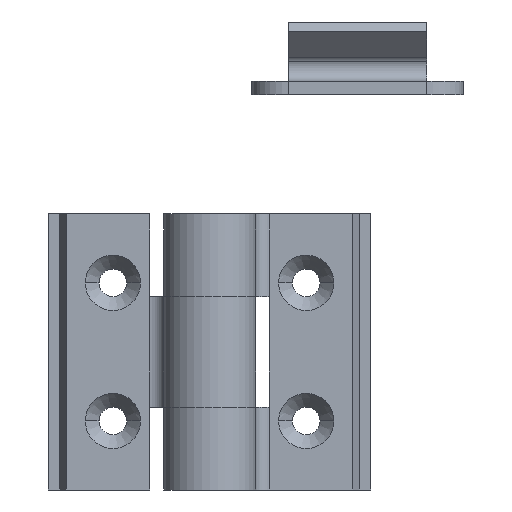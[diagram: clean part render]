
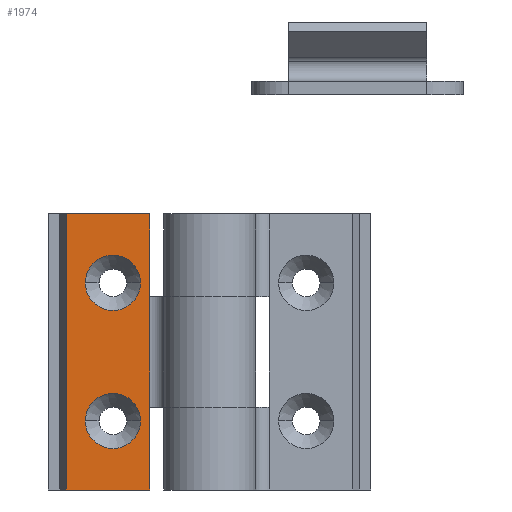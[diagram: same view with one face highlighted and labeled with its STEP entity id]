
A CAD part, front view. The second image highlights one B-rep face of the part: STEP entity #1974.
In plain terms, the highlighted planar face has unit normal (0, -1, 0).
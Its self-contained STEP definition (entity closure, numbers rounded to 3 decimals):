
#1484=CARTESIAN_POINT('',(-0.231,2.,6.));
#1485=VERTEX_POINT('',#1484);
#1493=CARTESIAN_POINT('',(-0.231,2.,-6.));
#1494=VERTEX_POINT('',#1493);
#1495=CARTESIAN_POINT('',(-0.231,2.,-6.));
#1496=DIRECTION('',(0.0,0.0,1.0));
#1497=VECTOR('',#1496,12.0);
#1498=LINE('',#1495,#1497);
#1499=EDGE_CURVE('',#1494,#1485,#1498,.T.);
#1558=CARTESIAN_POINT('',(-7.25,2.,7.5));
#1559=VERTEX_POINT('',#1558);
#1567=CARTESIAN_POINT('',(-1.25,2.,7.5));
#1568=VERTEX_POINT('',#1567);
#1575=CARTESIAN_POINT('',(-4.25,2.,7.5));
#1576=DIRECTION('',(0.0,1.0,0.0));
#1577=DIRECTION('',(-1.0,0.0,0.0));
#1578=AXIS2_PLACEMENT_3D('',#1575,#1576,#1577);
#1579=CIRCLE('',#1578,3.);
#1580=EDGE_CURVE('',#1559,#1568,#1579,.T.);
#1632=CARTESIAN_POINT('',(-7.25,2.,-7.5));
#1633=VERTEX_POINT('',#1632);
#1641=CARTESIAN_POINT('',(-1.25,2.,-7.5));
#1642=VERTEX_POINT('',#1641);
#1649=CARTESIAN_POINT('',(-4.25,2.,-7.5));
#1650=DIRECTION('',(0.0,1.0,0.0));
#1651=DIRECTION('',(-1.0,0.0,0.0));
#1652=AXIS2_PLACEMENT_3D('',#1649,#1650,#1651);
#1653=CIRCLE('',#1652,3.);
#1654=EDGE_CURVE('',#1633,#1642,#1653,.T.);
#1731=CARTESIAN_POINT('',(-4.25,2.,-7.5));
#1732=DIRECTION('',(0.0,1.0,0.0));
#1733=DIRECTION('',(-1.0,0.0,0.0));
#1734=AXIS2_PLACEMENT_3D('',#1731,#1732,#1733);
#1735=CIRCLE('',#1734,3.);
#1736=EDGE_CURVE('',#1642,#1633,#1735,.T.);
#1773=CARTESIAN_POINT('',(-4.25,2.,7.5));
#1774=DIRECTION('',(0.0,1.0,0.0));
#1775=DIRECTION('',(-1.0,0.0,0.0));
#1776=AXIS2_PLACEMENT_3D('',#1773,#1774,#1775);
#1777=CIRCLE('',#1776,3.);
#1778=EDGE_CURVE('',#1568,#1559,#1777,.T.);
#1823=CARTESIAN_POINT('',(-0.25,2.,6.));
#1824=VERTEX_POINT('',#1823);
#1831=CARTESIAN_POINT('',(-0.231,2.,6.));
#1832=DIRECTION('',(-1.0,0.0,0.0));
#1833=VECTOR('',#1832,0.019);
#1834=LINE('',#1831,#1833);
#1835=EDGE_CURVE('',#1485,#1824,#1834,.T.);
#1867=CARTESIAN_POINT('',(-0.25,2.,15.0));
#1868=VERTEX_POINT('',#1867);
#1869=CARTESIAN_POINT('',(-0.25,2.,6.));
#1870=DIRECTION('',(0.0,0.0,1.0));
#1871=VECTOR('',#1870,9.);
#1872=LINE('',#1869,#1871);
#1873=EDGE_CURVE('',#1824,#1868,#1872,.T.);
#1918=CARTESIAN_POINT('',(-0.231,2.,-15.));
#1919=DIRECTION('',(0.0,-1.0,0.0));
#1920=DIRECTION('',(1.0,0.0,0.0));
#1921=AXIS2_PLACEMENT_3D('',#1918,#1919,#1920);
#1922=PLANE('',#1921);
#1923=ORIENTED_EDGE('',*,*,#1835,.T.);
#1924=ORIENTED_EDGE('',*,*,#1873,.T.);
#1925=CARTESIAN_POINT('',(-9.3,2.,15.0));
#1926=VERTEX_POINT('',#1925);
#1927=CARTESIAN_POINT('',(-0.25,2.,15.0));
#1928=DIRECTION('',(-1.0,0.0,0.0));
#1929=VECTOR('',#1928,9.05);
#1930=LINE('',#1927,#1929);
#1931=EDGE_CURVE('',#1868,#1926,#1930,.T.);
#1932=ORIENTED_EDGE('',*,*,#1931,.T.);
#1933=CARTESIAN_POINT('',(-9.3,2.,-15.));
#1934=VERTEX_POINT('',#1933);
#1935=CARTESIAN_POINT('',(-9.3,2.,-15.));
#1936=DIRECTION('',(0.0,0.0,1.0));
#1937=VECTOR('',#1936,30.0);
#1938=LINE('',#1935,#1937);
#1939=EDGE_CURVE('',#1934,#1926,#1938,.T.);
#1940=ORIENTED_EDGE('',*,*,#1939,.F.);
#1941=CARTESIAN_POINT('',(-0.25,2.,-15.));
#1942=VERTEX_POINT('',#1941);
#1943=CARTESIAN_POINT('',(-0.25,2.,-15.));
#1944=DIRECTION('',(-1.0,0.0,0.0));
#1945=VECTOR('',#1944,9.05);
#1946=LINE('',#1943,#1945);
#1947=EDGE_CURVE('',#1942,#1934,#1946,.T.);
#1948=ORIENTED_EDGE('',*,*,#1947,.F.);
#1949=CARTESIAN_POINT('',(-0.25,2.,-6.));
#1950=VERTEX_POINT('',#1949);
#1951=CARTESIAN_POINT('',(-0.25,2.,-15.));
#1952=DIRECTION('',(0.0,0.0,1.0));
#1953=VECTOR('',#1952,9.0);
#1954=LINE('',#1951,#1953);
#1955=EDGE_CURVE('',#1942,#1950,#1954,.T.);
#1956=ORIENTED_EDGE('',*,*,#1955,.T.);
#1957=CARTESIAN_POINT('',(-0.25,2.,-6.));
#1958=DIRECTION('',(1.0,0.0,0.0));
#1959=VECTOR('',#1958,0.019);
#1960=LINE('',#1957,#1959);
#1961=EDGE_CURVE('',#1950,#1494,#1960,.T.);
#1962=ORIENTED_EDGE('',*,*,#1961,.T.);
#1963=ORIENTED_EDGE('',*,*,#1499,.T.);
#1964=EDGE_LOOP('',(#1923,#1924,#1932,#1940,#1948,#1956,#1962,#1963));
#1965=FACE_OUTER_BOUND('',#1964,.T.);
#1966=ORIENTED_EDGE('',*,*,#1654,.T.);
#1967=ORIENTED_EDGE('',*,*,#1736,.T.);
#1968=EDGE_LOOP('',(#1966,#1967));
#1969=FACE_BOUND('',#1968,.T.);
#1970=ORIENTED_EDGE('',*,*,#1580,.T.);
#1971=ORIENTED_EDGE('',*,*,#1778,.T.);
#1972=EDGE_LOOP('',(#1970,#1971));
#1973=FACE_BOUND('',#1972,.T.);
#1974=ADVANCED_FACE('',(#1965,#1969,#1973),#1922,.T.);
